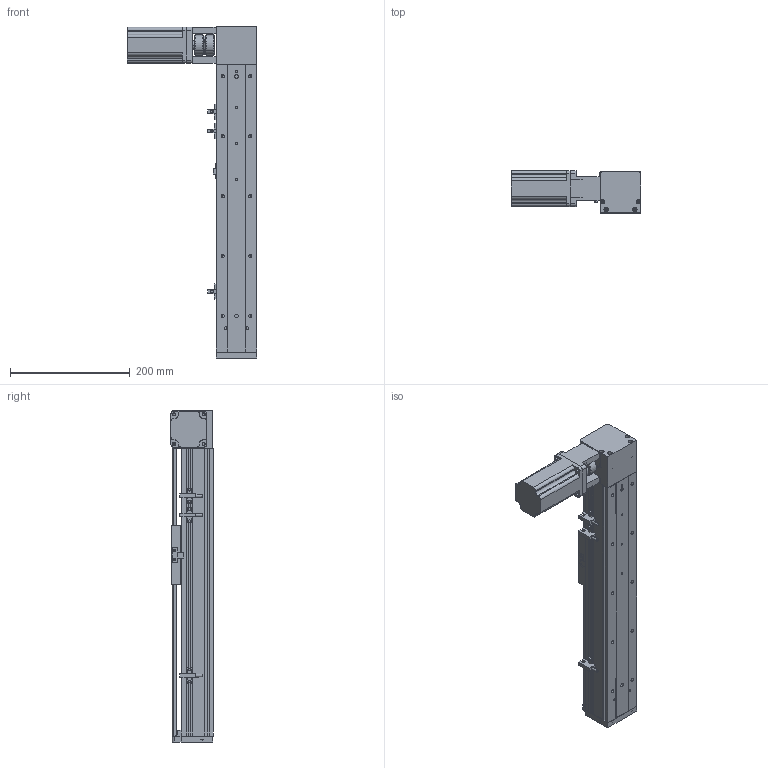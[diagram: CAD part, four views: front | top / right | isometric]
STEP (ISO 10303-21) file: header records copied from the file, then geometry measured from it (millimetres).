
FILE_DESCRIPTION (( 'STEP AP203' ), '1' );
FILE_NAME ('ML68-S300-BL.STEP', '2016-06-01T03:04:04', ( '微软用户' ), ( '微软中国' ), 'SwSTEP 2.0', 'SolidWorks 2014', '' );
FILE_SCHEMA (( 'CONFIG_CONTROL_DESIGN' ));
Length unit declared in the file: millimetre
Products named in the file (12): ML68-菁釱^ML68-S300-BL; ML68雄赽釱; ML68傷啣; ML68滅鳥啣盓傅輸; 換覜ん; ML68-S300-BL; 三协电机MH201N2_預設; 联轴器（CS34X32-8X14）_預設; ML68-BL傷啣; MS68-TS0204鎮湛嘐隅釱_蕼偞; 60換覜結え; ML68-奻裔^ML68-S300-BL
Assembly tree (13 placements, depth 2):
  ML68-S300-BL
    ML68-BL傷啣
    60換覜結え
    ML68-菁釱^ML68-S300-BL
    ML68傷啣
    換覜ん  x3
    三协电机MH201N2_預設
    联轴器（CS34X32-8X14）_預設
    MS68-TS0204鎮湛嘐隅釱_蕼偞
    ML68-奻裔^ML68-S300-BL
    ML68雄赽釱
    ML68滅鳥啣盓傅輸
Bounding box: 216.5 x 70.5 x 554 mm (x, y, z)
Volume: 1312687.3 mm3; surface area: 419994.6 mm2
Topology: 14 solids, 14 shells, 855 faces, 2313 edges, 1463 vertices
Faces by surface type: cylinder 391, plane 354, cone 100, bspline 10
Entity records: 27001 total; most frequent: CARTESIAN_POINT 5271, DIRECTION 4405, ORIENTED_EDGE 4142, EDGE_CURVE 2071, AXIS2_PLACEMENT_3D 1607, VERTEX_POINT 1351, VECTOR 1191, LINE 1191
